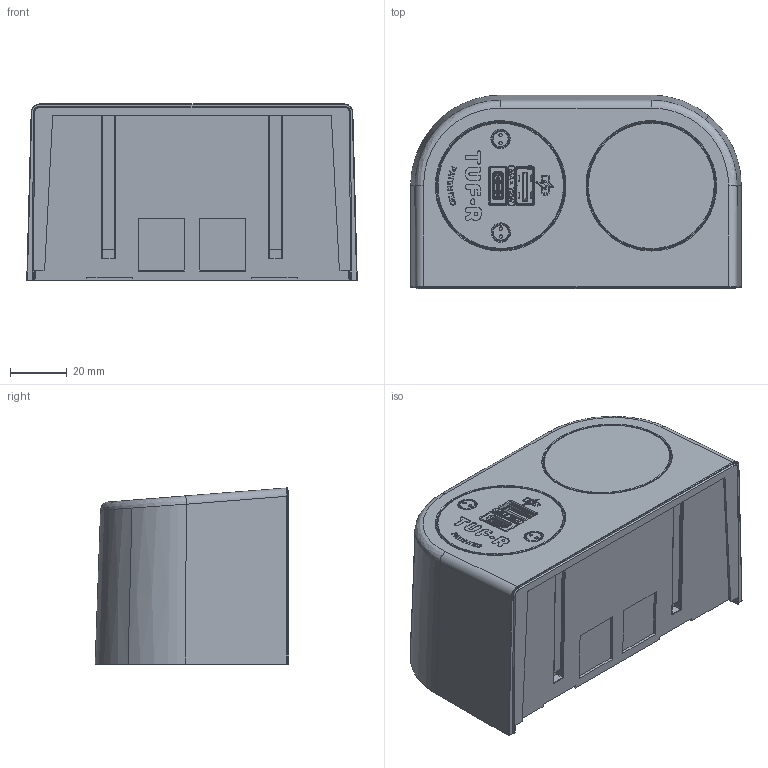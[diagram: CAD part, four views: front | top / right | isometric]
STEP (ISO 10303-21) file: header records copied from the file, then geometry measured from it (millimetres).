
FILE_DESCRIPTION (( 'STEP AP203' ), '1' );
FILE_NAME ('Phase_11_Block.STEP', '2023-04-20T12:44:33', ( '' ), ( '' ), 'SwSTEP 2.0', 'SolidWorks 2021', '' );
FILE_SCHEMA (( 'CONFIG_CONTROL_DESIGN' ));
Products named in the file (1): Phase_11_Block
Bounding box: 116.26 x 68.13 x 61.95 mm (x, y, z)
Volume: 405491.6 mm3; surface area: 42049.5 mm2
Topology: 1 solids, 3 shells, 2252 faces, 6626 edges, 4273 vertices
Faces by surface type: plane 1477, cylinder 504, bspline 242, cone 26, torus 3
Entity records: 83574 total; most frequent: CARTESIAN_POINT 26587, ORIENTED_EDGE 13248, DIRECTION 9746, EDGE_CURVE 6624, VECTOR 4878, LINE 4878, VERTEX_POINT 4272, AXIS2_PLACEMENT_3D 2434
